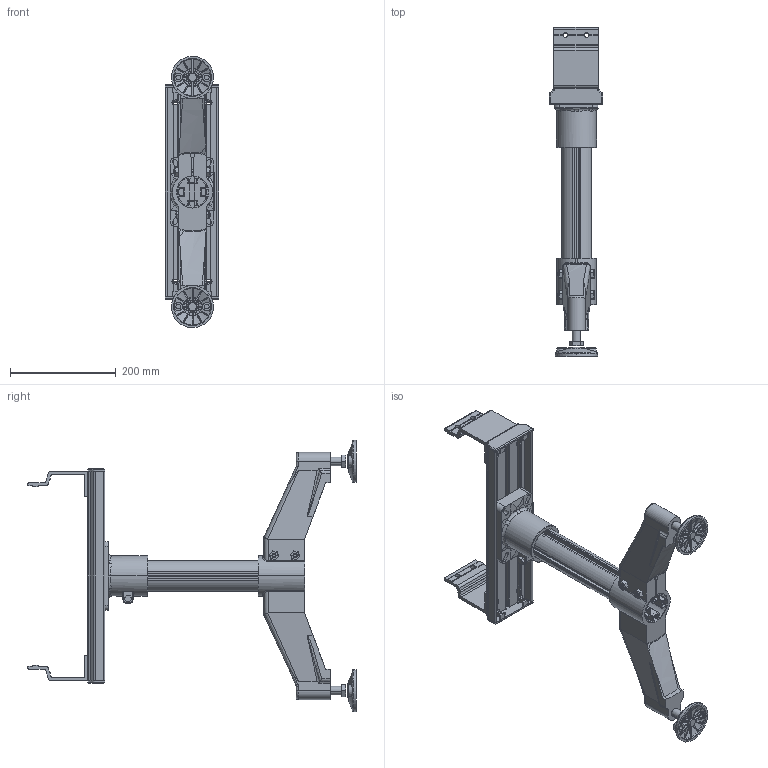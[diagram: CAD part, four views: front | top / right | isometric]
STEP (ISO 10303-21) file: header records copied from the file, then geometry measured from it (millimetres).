
FILE_DESCRIPTION (( 'STEP AP214' ), '1' );
FILE_NAME ('F2-1200-P2.STEP', '2010-03-11T09:13:08', ( '.' ), ( '' ), 'SwSTEP 2.0', 'SolidWorks 2009', '' );
FILE_SCHEMA (( 'AUTOMOTIVE_DESIGN' ));
Length unit declared in the file: millimetre
Products named in the file (1): F2-1200-P2
Bounding box: 102 x 623.16 x 514.6 mm (x, y, z)
Surface area: 678229.7 mm2 (no closed solid volume)
Topology: 0 solids, 19 shells, 994 faces, 3211 edges, 2131 vertices
Faces by surface type: plane 428, cylinder 299, bspline 93, cone 89, torus 61, sphere 24
Entity records: 60094 total; most frequent: CARTESIAN_POINT 22437, ORIENTED_EDGE 5511, DIRECTION 5280, EDGE_CURVE 3208, VERTEX_POINT 2131, AXIS2_PLACEMENT_3D 1910, LINE 1460, VECTOR 1460
